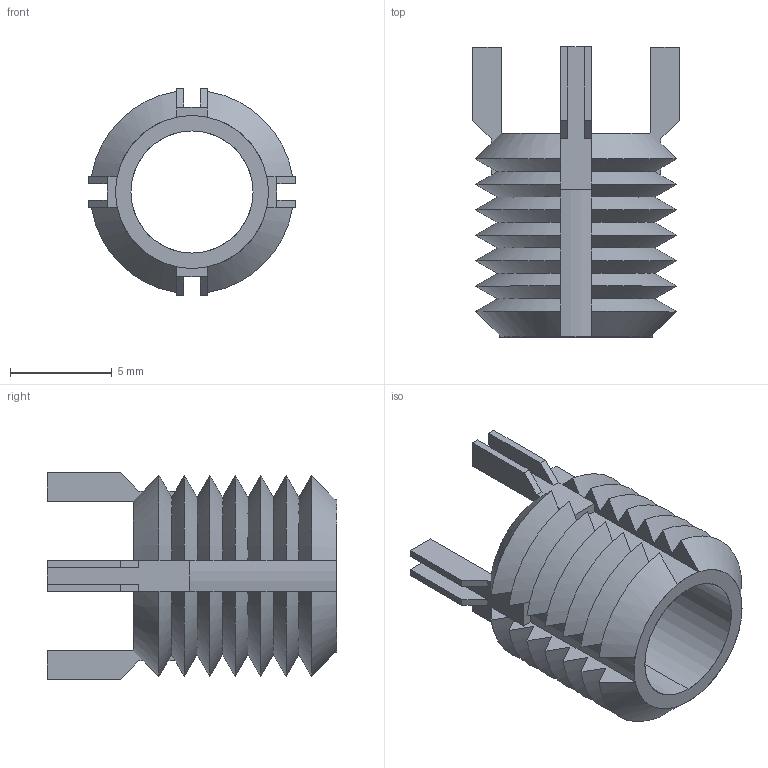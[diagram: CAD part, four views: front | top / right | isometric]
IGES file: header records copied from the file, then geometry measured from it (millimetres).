
Start section: SolidWorks IGES file using analytic representation for surfaces
Global section: file name: C:\Users\IanO\Desktop\22004_v2\TR1520_v2_20230331_IGES\TR1520.65952.igs; native system: SolidWorks 2019; preprocessor: SolidWorks 2019; author: IanO; date: 230331.094814; units: millimetre
Bounding box: 10.15 x 14.25 x 10.15 mm (x, y, z)
Surface area: 869.4 mm2 (no closed solid volume)
Topology: 0 solids, 0 shells, 136 faces, 848 edges, 848 vertices
Faces by surface type: bspline 74, revolution 62
